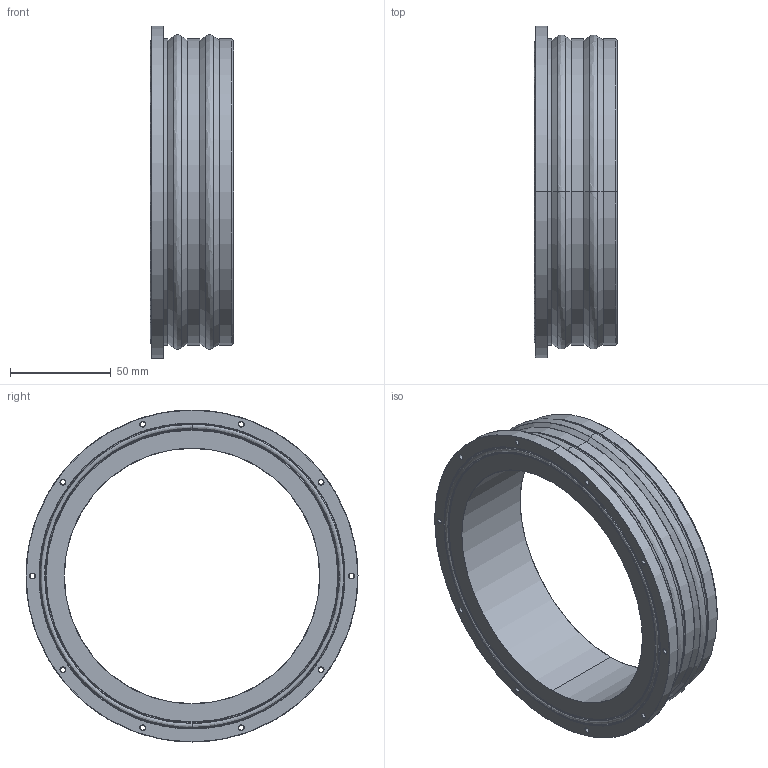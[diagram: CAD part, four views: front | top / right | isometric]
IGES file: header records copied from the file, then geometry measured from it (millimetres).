
Start section: SolidWorks IGES file using analytic representation for surfaces
Global section: file name: C:\Users\Jonathan\Dropbox\BR-Engineering\Models\WTE6-X1A-PUBLIC\IGS STEP STL\WTE6-M-FLANGE-SEAL-R1.IGS; native system: SolidWorks 2014; preprocessor: SolidWorks 2014; author: Jonathan; date: 170301.094159; units: millimetre
Bounding box: 41.5 x 165.1 x 165.1 mm (x, y, z)
Surface area: 57701.2 mm2 (no closed solid volume)
Topology: 0 solids, 0 shells, 120 faces, 1856 edges, 1848 vertices
Faces by surface type: revolution 106, bspline 14
